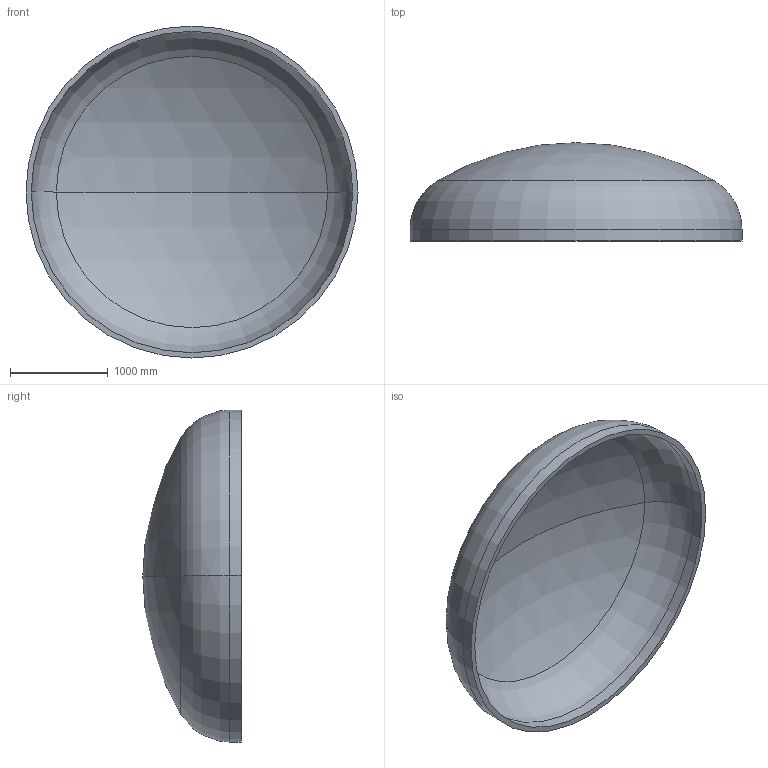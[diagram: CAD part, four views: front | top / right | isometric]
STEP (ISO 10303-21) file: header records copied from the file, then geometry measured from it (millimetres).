
FILE_DESCRIPTION (( 'STEP AP203' ), '1' );
FILE_NAME ('DIN 28013 Korbbogenform_-_Boden DIN 28013 - 3400 x 120 - I - s=54.step', '2016-07-01T19:36:57', ( '' ), ( '' ), 'SwSTEP 2.0', 'SolidWorks 2013', '' );
FILE_SCHEMA (( 'CONFIG_CONTROL_DESIGN' ));
Length unit declared in the file: millimetre
Products named in the file (1): DIN 28013 Korbbogenform_-_Boden DIN 28013 - 3400 x 120 - I - s=54
Bounding box: 3400 x 1006.84 x 3400 mm (x, y, z)
Volume: 733406974.8 mm3; surface area: 27736954.5 mm2
Topology: 1 solids, 1 shells, 13 faces, 24 edges, 14 vertices
Faces by surface type: torus 4, cylinder 4, sphere 4, plane 1
Entity records: 407 total; most frequent: DIRECTION 72, CARTESIAN_POINT 52, ORIENTED_EDGE 48, AXIS2_PLACEMENT_3D 34, EDGE_CURVE 24, CIRCLE 20, VERTEX_POINT 14, EDGE_LOOP 14
